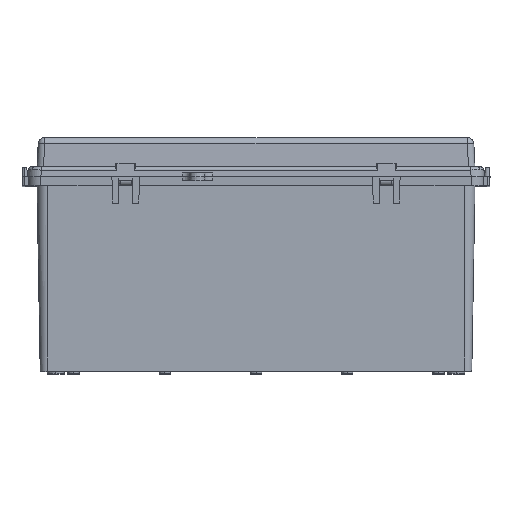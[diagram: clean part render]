
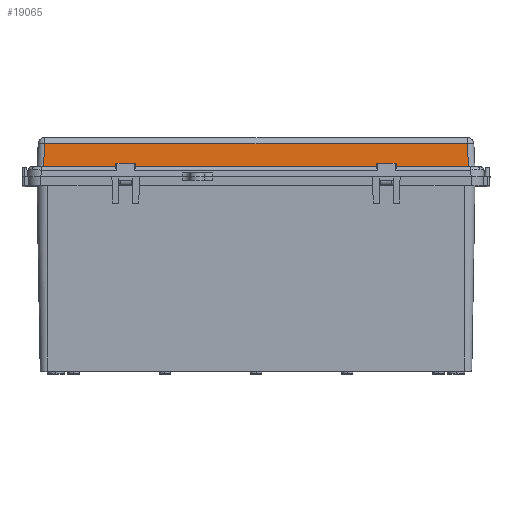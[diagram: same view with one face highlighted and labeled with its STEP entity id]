
A CAD part, top view. The second image highlights one B-rep face of the part: STEP entity #19065.
In plain terms, the highlighted planar face has unit normal (0, 0.052, 0.999).
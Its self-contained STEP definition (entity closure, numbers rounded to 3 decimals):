
#268 = EDGE_CURVE ( 'NONE', #2834, #6898, #22443, .T. ) ;
#662 = AXIS2_PLACEMENT_3D ( 'NONE', #11008, #16489, #4142 ) ;
#2482 = ORIENTED_EDGE ( 'NONE', *, *, #9087, .F. ) ;
#2605 = FACE_OUTER_BOUND ( 'NONE', #19806, .T. ) ;
#2834 = VERTEX_POINT ( 'NONE', #19296 ) ;
#2839 = CARTESIAN_POINT ( 'NONE',  ( 162.076, 25.262, 167.069 ) ) ;
#2851 = ORIENTED_EDGE ( 'NONE', *, *, #268, .T. ) ;
#3093 = EDGE_CURVE ( 'NONE', #6898, #9828, #15484, .T. ) ;
#3229 = DIRECTION ( 'NONE',  ( -1., 0., 0. ) ) ;
#3928 = VECTOR ( 'NONE', #13388, 1000. ) ;
#4022 = PLANE ( 'NONE',  #662 ) ;
#4142 = DIRECTION ( 'NONE',  ( 0., -0.999, 0.052 ) ) ;
#6323 = DIRECTION ( 'NONE',  ( -0.052, 0.997, -0.052 ) ) ;
#6898 = VERTEX_POINT ( 'NONE', #2839 ) ;
#8994 = CARTESIAN_POINT ( 'NONE',  ( -163.007, 7.5, 168. ) ) ;
#9087 = EDGE_CURVE ( 'NONE', #2834, #18162, #9972, .T. ) ;
#9822 = CARTESIAN_POINT ( 'NONE',  ( 163.02, 7.24, 168.014 ) ) ;
#9828 = VERTEX_POINT ( 'NONE', #18631 ) ;
#9972 = LINE ( 'NONE', #20728, #22125 ) ;
#10863 = CARTESIAN_POINT ( 'NONE',  ( -162.103, 24.753, 167.096 ) ) ;
#11008 = CARTESIAN_POINT ( 'NONE',  ( 168., 7.5, 168. ) ) ;
#11320 = LINE ( 'NONE', #10863, #16763 ) ;
#13388 = DIRECTION ( 'NONE',  ( -1., 0., 0. ) ) ;
#14713 = ORIENTED_EDGE ( 'NONE', *, *, #3093, .T. ) ;
#15484 = LINE ( 'NONE', #22629, #3928 ) ;
#16489 = DIRECTION ( 'NONE',  ( 0., 0.052, 0.999 ) ) ;
#16763 = VECTOR ( 'NONE', #18218, 1000. ) ;
#18162 = VERTEX_POINT ( 'NONE', #8994 ) ;
#18218 = DIRECTION ( 'NONE',  ( -0.052, -0.997, 0.052 ) ) ;
#18269 = EDGE_CURVE ( 'NONE', #9828, #18162, #11320, .T. ) ;
#18631 = CARTESIAN_POINT ( 'NONE',  ( -162.076, 25.262, 167.069 ) ) ;
#18954 = VECTOR ( 'NONE', #6323, 1000. ) ;
#19065 = ADVANCED_FACE ( 'NONE', ( #2605 ), #4022, .T. ) ;
#19296 = CARTESIAN_POINT ( 'NONE',  ( 163.007, 7.5, 168. ) ) ;
#19806 = EDGE_LOOP ( 'NONE', ( #2851, #14713, #21292, #2482 ) ) ;
#20728 = CARTESIAN_POINT ( 'NONE',  ( 168., 7.5, 168. ) ) ;
#21292 = ORIENTED_EDGE ( 'NONE', *, *, #18269, .T. ) ;
#22125 = VECTOR ( 'NONE', #3229, 1000. ) ;
#22443 = LINE ( 'NONE', #9822, #18954 ) ;
#22629 = CARTESIAN_POINT ( 'NONE',  ( 168., 25.262, 167.069 ) ) ;
